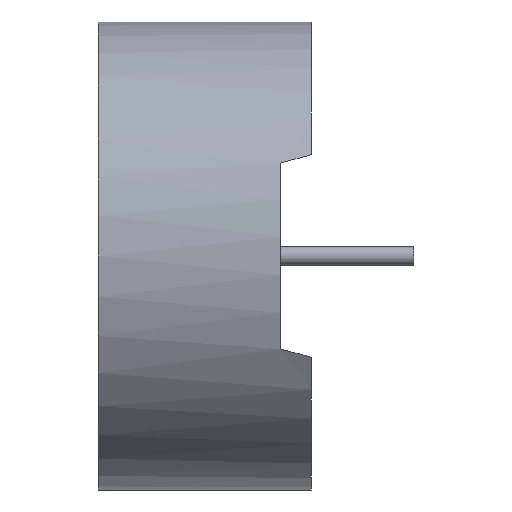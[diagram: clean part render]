
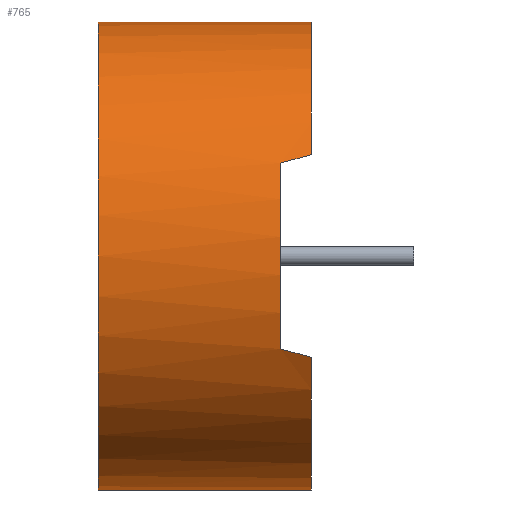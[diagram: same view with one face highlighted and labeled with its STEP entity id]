
A CAD part, left-side view. The second image highlights one B-rep face of the part: STEP entity #765.
In plain terms, the highlighted cylindrical face has radius 9.588 mm (diameter 19.177 mm), a partial arc.
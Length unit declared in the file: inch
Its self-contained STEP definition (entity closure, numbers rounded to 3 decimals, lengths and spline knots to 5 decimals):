
#4 = AXIS2_PLACEMENT_3D ( 'NONE', #126, #1195, #969 ) ;
#43 = EDGE_CURVE ( 'NONE', #714, #497, #950, .T. ) ;
#75 = VERTEX_POINT ( 'NONE', #1045 ) ;
#80 = VERTEX_POINT ( 'NONE', #1057 ) ;
#104 = ORIENTED_EDGE ( 'NONE', *, *, #1006, .T. ) ;
#110 =( BOUNDED_CURVE ( )  B_SPLINE_CURVE ( 3, ( #384, #901, #878, #1285 ),
 .UNSPECIFIED., .F., .T. ) 
 B_SPLINE_CURVE_WITH_KNOTS ( ( 4, 4 ),
 ( 5.12102, 5.16004 ),
 .UNSPECIFIED. ) 
 CURVE ( )  GEOMETRIC_REPRESENTATION_ITEM ( )  RATIONAL_B_SPLINE_CURVE ( ( 1., 1., 1., 1. ) ) 
 REPRESENTATION_ITEM ( '' )  );
#126 = CARTESIAN_POINT ( 'NONE',  ( 0., 0.344, 0. ) ) ;
#133 = CARTESIAN_POINT ( 'NONE',  ( -0.34642, 0.05, 0.15 ) ) ;
#151 = FACE_OUTER_BOUND ( 'NONE', #953, .T. ) ;
#165 = VECTOR ( 'NONE', #334, 39.37008 ) ;
#178 = AXIS2_PLACEMENT_3D ( 'NONE', #271, #407, #325 ) ;
#186 =( BOUNDED_CURVE ( )  B_SPLINE_CURVE ( 3, ( #1228, #523, #627, #886 ),
 .UNSPECIFIED., .F., .T. ) 
 B_SPLINE_CURVE_WITH_KNOTS ( ( 4, 4 ),
 ( 1.12315, 1.16217 ),
 .UNSPECIFIED. ) 
 CURVE ( )  GEOMETRIC_REPRESENTATION_ITEM ( )  RATIONAL_B_SPLINE_CURVE ( ( 1., 1., 1., 1. ) ) 
 REPRESENTATION_ITEM ( '' )  );
#194 = CARTESIAN_POINT ( 'NONE',  ( 0., 0., 0. ) ) ;
#206 = DIRECTION ( 'NONE',  ( 0., 1., 0. ) ) ;
#208 = AXIS2_PLACEMENT_3D ( 'NONE', #1121, #1096, #1101 ) ;
#236 = CARTESIAN_POINT ( 'NONE',  ( 0., 0.344, 0.3775 ) ) ;
#253 = CIRCLE ( 'NONE', #861, 0.3775 ) ;
#271 = CARTESIAN_POINT ( 'NONE',  ( 0., 0., 0. ) ) ;
#316 = ORIENTED_EDGE ( 'NONE', *, *, #504, .F. ) ;
#325 = DIRECTION ( 'NONE',  ( 0., 0., 1. ) ) ;
#332 = AXIS2_PLACEMENT_3D ( 'NONE', #947, #1088, #1086 ) ;
#334 = DIRECTION ( 'NONE',  ( 0., -1., 0. ) ) ;
#353 = DIRECTION ( 'NONE',  ( 0., -1., 0. ) ) ;
#367 = CIRCLE ( 'NONE', #178, 0.3775 ) ;
#384 = CARTESIAN_POINT ( 'NONE',  ( -0.34642, 0.05, 0.15 ) ) ;
#407 = DIRECTION ( 'NONE',  ( 0., 1., 0. ) ) ;
#420 = VERTEX_POINT ( 'NONE', #1032 ) ;
#497 = VERTEX_POINT ( 'NONE', #133 ) ;
#504 = EDGE_CURVE ( 'NONE', #773, #958, #568, .T. ) ;
#523 = CARTESIAN_POINT ( 'NONE',  ( -0.34243, 0.01652, -0.15897 ) ) ;
#568 = LINE ( 'NONE', #752, #165 ) ;
#598 = DIRECTION ( 'NONE',  ( 0., 0., 1. ) ) ;
#610 = CIRCLE ( 'NONE', #208, 0.3775 ) ;
#627 = CARTESIAN_POINT ( 'NONE',  ( -0.34447, 0.03319, -0.15451 ) ) ;
#672 = ORIENTED_EDGE ( 'NONE', *, *, #43, .T. ) ;
#714 = VERTEX_POINT ( 'NONE', #768 ) ;
#750 = CARTESIAN_POINT ( 'NONE',  ( 0., 0., 0.3775 ) ) ;
#752 = CARTESIAN_POINT ( 'NONE',  ( 0., 0.344, 0.3775 ) ) ;
#765 = ADVANCED_FACE ( 'NONE', ( #151 ), #868, .T. ) ;
#768 = CARTESIAN_POINT ( 'NONE',  ( -0.34642, 0.05, -0.15 ) ) ;
#773 = VERTEX_POINT ( 'NONE', #236 ) ;
#794 = EDGE_CURVE ( 'NONE', #956, #773, #610, .T. ) ;
#834 = ORIENTED_EDGE ( 'NONE', *, *, #919, .T. ) ;
#861 = AXIS2_PLACEMENT_3D ( 'NONE', #194, #206, #598 ) ;
#868 = CYLINDRICAL_SURFACE ( 'NONE', #4, 0.3775 ) ;
#878 = CARTESIAN_POINT ( 'NONE',  ( -0.34243, 0.01652, 0.15897 ) ) ;
#886 = CARTESIAN_POINT ( 'NONE',  ( -0.34642, 0.05, -0.15 ) ) ;
#901 = CARTESIAN_POINT ( 'NONE',  ( -0.34447, 0.03319, 0.15451 ) ) ;
#919 = EDGE_CURVE ( 'NONE', #956, #75, #1071, .T. ) ;
#947 = CARTESIAN_POINT ( 'NONE',  ( 0., 0.05, 0. ) ) ;
#949 = VECTOR ( 'NONE', #353, 39.37008 ) ;
#950 = CIRCLE ( 'NONE', #332, 0.3775 ) ;
#953 = EDGE_LOOP ( 'NONE', ( #316, #1180, #834, #973, #104, #672, #976, #1041 ) ) ;
#956 = VERTEX_POINT ( 'NONE', #1182 ) ;
#958 = VERTEX_POINT ( 'NONE', #750 ) ;
#969 = DIRECTION ( 'NONE',  ( 0., 0., -1. ) ) ;
#973 = ORIENTED_EDGE ( 'NONE', *, *, #1066, .T. ) ;
#976 = ORIENTED_EDGE ( 'NONE', *, *, #1198, .T. ) ;
#1006 = EDGE_CURVE ( 'NONE', #420, #714, #186, .T. ) ;
#1032 = CARTESIAN_POINT ( 'NONE',  ( -0.3403, 0., -0.1634 ) ) ;
#1041 = ORIENTED_EDGE ( 'NONE', *, *, #1272, .T. ) ;
#1045 = CARTESIAN_POINT ( 'NONE',  ( 0., 0., -0.3775 ) ) ;
#1057 = CARTESIAN_POINT ( 'NONE',  ( -0.3403, 0., 0.1634 ) ) ;
#1066 = EDGE_CURVE ( 'NONE', #75, #420, #367, .T. ) ;
#1071 = LINE ( 'NONE', #1234, #949 ) ;
#1086 = DIRECTION ( 'NONE',  ( 0., 0., 1. ) ) ;
#1088 = DIRECTION ( 'NONE',  ( 0., 1., 0. ) ) ;
#1096 = DIRECTION ( 'NONE',  ( 0., 1., 0. ) ) ;
#1101 = DIRECTION ( 'NONE',  ( 0., 0., 1. ) ) ;
#1121 = CARTESIAN_POINT ( 'NONE',  ( 0., 0.344, 0. ) ) ;
#1180 = ORIENTED_EDGE ( 'NONE', *, *, #794, .F. ) ;
#1182 = CARTESIAN_POINT ( 'NONE',  ( 0., 0.344, -0.3775 ) ) ;
#1195 = DIRECTION ( 'NONE',  ( 0., -1., 0. ) ) ;
#1198 = EDGE_CURVE ( 'NONE', #497, #80, #110, .T. ) ;
#1228 = CARTESIAN_POINT ( 'NONE',  ( -0.3403, 0., -0.1634 ) ) ;
#1234 = CARTESIAN_POINT ( 'NONE',  ( 0., 0.344, -0.3775 ) ) ;
#1272 = EDGE_CURVE ( 'NONE', #80, #958, #253, .T. ) ;
#1285 = CARTESIAN_POINT ( 'NONE',  ( -0.3403, 0., 0.1634 ) ) ;
